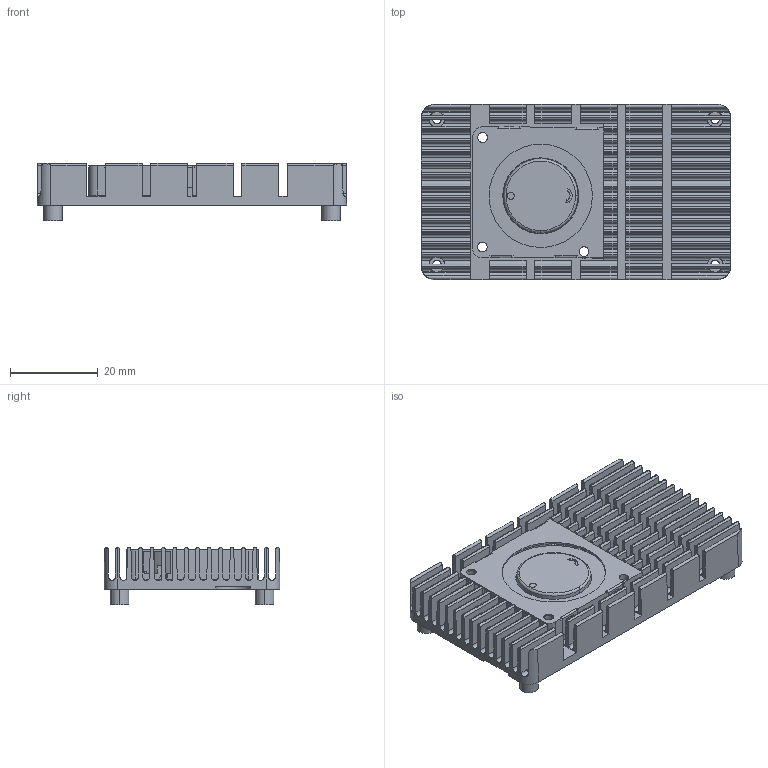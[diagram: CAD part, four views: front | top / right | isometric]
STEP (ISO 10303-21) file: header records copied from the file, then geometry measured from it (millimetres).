
FILE_DESCRIPTION((''),'2;1');
FILE_NAME('7210B_X1_2_1_ASM','2024-05-20T16:06:17',('admin'),(''),'CREO PARAMETRIC BY PTC INC, 2024063','CREO PARAMETRIC BY PTC INC, 2024063','');
FILE_SCHEMA(('CONFIG_CONTROL_DESIGN','SHAPE_APPEARANCE_LAYERS_GROUPS'));
Length unit declared in the file: millimetre
Products named in the file (2): 7210B_X1_2_1_1; 7210B_X1_2_1_ASM
Assembly tree (1 placements, depth 2):
  7210B_X1_2_1_ASM
    7210B_X1_2_1_1
Bounding box: 70.3 x 40 x 13 mm (x, y, z)
Volume: 13423.7 mm3; surface area: 21533.7 mm2
Topology: 1 solids, 8 shells, 1182 faces, 3417 edges, 2262 vertices
Faces by surface type: plane 581, cylinder 534, torus 37, cone 20, bspline 6, sphere 4
Entity records: 41763 total; most frequent: CARTESIAN_POINT 8176, DIRECTION 6979, ORIENTED_EDGE 6826, EDGE_CURVE 3413, AXIS2_PLACEMENT_3D 2528, VERTEX_POINT 2262, VECTOR 1923, LINE 1923
